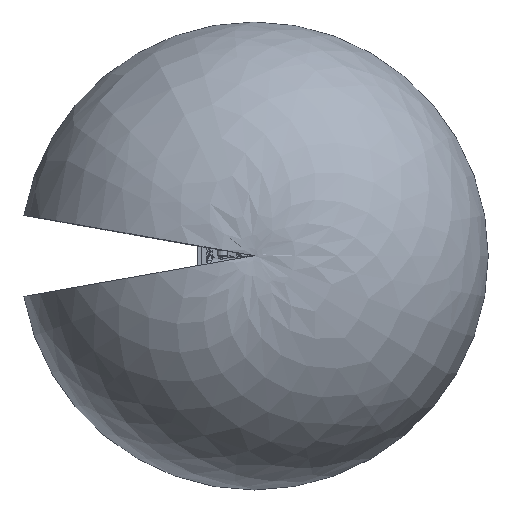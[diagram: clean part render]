
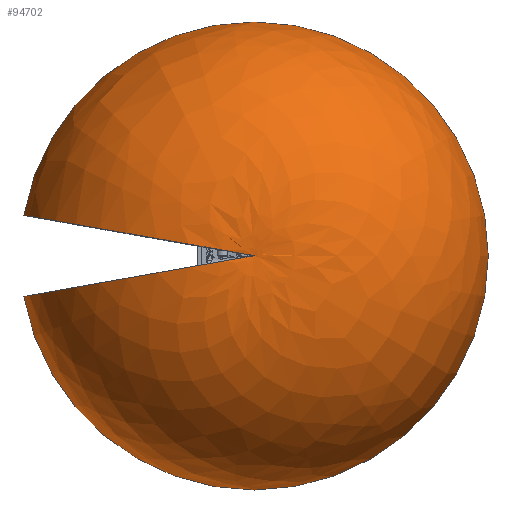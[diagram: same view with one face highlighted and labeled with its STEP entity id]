
A CAD part, top view. The second image highlights one B-rep face of the part: STEP entity #94702.
In plain terms, the highlighted free-form (B-spline) face has degree [2, 2] with [5, 9] control points.
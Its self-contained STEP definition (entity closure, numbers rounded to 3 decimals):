
#493=(
BOUNDED_SURFACE()
B_SPLINE_SURFACE(2,2,((#234481,#234482,#234483,#234484,#234485,#234486,
#234487,#234488,#234489),(#234490,#234491,#234492,#234493,#234494,#234495,
#234496,#234497,#234498),(#234499,#234500,#234501,#234502,#234503,#234504,
#234505,#234506,#234507),(#234508,#234509,#234510,#234511,#234512,#234513,
#234514,#234515,#234516),(#234517,#234518,#234519,#234520,#234521,#234522,
#234523,#234524,#234525)),.UNSPECIFIED.,.F.,.F.,.F.)
B_SPLINE_SURFACE_WITH_KNOTS((3,2,3),(3,2,2,2,3),(0.088,0.899,
1.711),(-2.967,-1.484,0.,
1.484,2.967),.UNSPECIFIED.)
GEOMETRIC_REPRESENTATION_ITEM()
RATIONAL_B_SPLINE_SURFACE(((1.,0.737,1.,0.737,1.,
0.737,1.,0.737,1.),(0.919,0.677,
0.919,0.677,0.919,0.677,
0.919,0.677,0.919),(1.,0.737,
1.,0.737,1.,0.737,1.,0.737,1.),(0.919,
0.677,0.919,0.677,0.919,
0.677,0.919,0.677,0.919),
(1.,0.737,1.,0.737,1.,0.737,1.,0.737,
1.)))
REPRESENTATION_ITEM('')
SURFACE()
);
#29275=FACE_OUTER_BOUND('',#35645,.T.);
#35645=EDGE_LOOP('',(#87619,#87620,#87621));
#38579=CIRCLE('',#103521,2596.498);
#38586=CIRCLE('',#103528,2285.266);
#38587=CIRCLE('',#103529,2285.266);
#47558=VERTEX_POINT('',#234396);
#47559=VERTEX_POINT('',#234398);
#47563=VERTEX_POINT('',#234526);
#60910=EDGE_CURVE('',#47559,#47558,#38579,.T.);
#60917=EDGE_CURVE('',#47563,#47558,#38586,.T.);
#60918=EDGE_CURVE('',#47563,#47559,#38587,.T.);
#87619=ORIENTED_EDGE('',*,*,#60910,.T.);
#87620=ORIENTED_EDGE('',*,*,#60917,.F.);
#87621=ORIENTED_EDGE('',*,*,#60918,.T.);
#94702=ADVANCED_FACE('',(#29275),#493,.F.);
#103521=AXIS2_PLACEMENT_3D('',#234399,#128569,#128570);
#103528=AXIS2_PLACEMENT_3D('',#234527,#128583,#128584);
#103529=AXIS2_PLACEMENT_3D('',#234528,#128585,#128586);
#128569=DIRECTION('center_axis',(0.,0.,1.));
#128570=DIRECTION('ref_axis',(1.,0.,0.));
#128583=DIRECTION('center_axis',(-0.174,-0.985,
0.));
#128584=DIRECTION('ref_axis',(0.,0.,-1.));
#128585=DIRECTION('center_axis',(0.174,-0.985,0.));
#128586=DIRECTION('ref_axis',(0.,0.,-1.));
#234396=CARTESIAN_POINT('',(-2557.051,450.877,980.));
#234398=CARTESIAN_POINT('',(-2557.051,-450.877,980.));
#234399=CARTESIAN_POINT('Origin',(0.,0.,980.));
#234481=CARTESIAN_POINT('Ctrl Pts',(-2557.051,-450.877,
980.));
#234482=CARTESIAN_POINT('Ctrl Pts',(-2143.898,-2793.983,980.));
#234483=CARTESIAN_POINT('Ctrl Pts',(226.3,-2586.617,
980.));
#234484=CARTESIAN_POINT('Ctrl Pts',(2596.498,-2379.252,
980.));
#234485=CARTESIAN_POINT('Ctrl Pts',(2596.498,0.,980.));
#234486=CARTESIAN_POINT('Ctrl Pts',(2596.498,2379.252,980.));
#234487=CARTESIAN_POINT('Ctrl Pts',(226.3,2586.617,980.));
#234488=CARTESIAN_POINT('Ctrl Pts',(-2143.898,2793.983,980.));
#234489=CARTESIAN_POINT('Ctrl Pts',(-2557.051,450.877,
980.));
#234490=CARTESIAN_POINT('Ctrl Pts',(-2472.4,-435.951,
1958.398));
#234491=CARTESIAN_POINT('Ctrl Pts',(-2072.925,-2701.488,
1958.398));
#234492=CARTESIAN_POINT('Ctrl Pts',(218.808,-2500.988,
1958.398));
#234493=CARTESIAN_POINT('Ctrl Pts',(2510.541,-2300.487,
1958.398));
#234494=CARTESIAN_POINT('Ctrl Pts',(2510.541,0.,1958.398));
#234495=CARTESIAN_POINT('Ctrl Pts',(2510.541,2300.487,1958.398));
#234496=CARTESIAN_POINT('Ctrl Pts',(218.808,2500.988,1958.398));
#234497=CARTESIAN_POINT('Ctrl Pts',(-2072.925,2701.488,
1958.398));
#234498=CARTESIAN_POINT('Ctrl Pts',(-2472.4,435.951,
1958.398));
#234499=CARTESIAN_POINT('Ctrl Pts',(-1715.058,-302.411,
2569.339));
#234500=CARTESIAN_POINT('Ctrl Pts',(-1437.949,-1873.972,
2569.339));
#234501=CARTESIAN_POINT('Ctrl Pts',(151.783,-1734.888,2569.339));
#234502=CARTESIAN_POINT('Ctrl Pts',(1741.515,-1595.805,
2569.339));
#234503=CARTESIAN_POINT('Ctrl Pts',(1741.515,0.,2569.339));
#234504=CARTESIAN_POINT('Ctrl Pts',(1741.515,1595.805,2569.339));
#234505=CARTESIAN_POINT('Ctrl Pts',(151.783,1734.888,2569.339));
#234506=CARTESIAN_POINT('Ctrl Pts',(-1437.949,1873.972,
2569.339));
#234507=CARTESIAN_POINT('Ctrl Pts',(-1715.058,302.411,
2569.339));
#234508=CARTESIAN_POINT('Ctrl Pts',(-957.715,-168.871,
3180.281));
#234509=CARTESIAN_POINT('Ctrl Pts',(-802.973,-1046.455,
3180.281));
#234510=CARTESIAN_POINT('Ctrl Pts',(84.758,-968.789,
3180.281));
#234511=CARTESIAN_POINT('Ctrl Pts',(972.49,-891.122,
3180.281));
#234512=CARTESIAN_POINT('Ctrl Pts',(972.49,0.,3180.281));
#234513=CARTESIAN_POINT('Ctrl Pts',(972.49,891.122,3180.281));
#234514=CARTESIAN_POINT('Ctrl Pts',(84.758,968.789,3180.281));
#234515=CARTESIAN_POINT('Ctrl Pts',(-802.973,1046.455,
3180.281));
#234516=CARTESIAN_POINT('Ctrl Pts',(-957.715,168.871,3180.281));
#234517=CARTESIAN_POINT('Ctrl Pts',(0.,0.,3042.751));
#234518=CARTESIAN_POINT('Ctrl Pts',(0.,0.,3042.751));
#234519=CARTESIAN_POINT('Ctrl Pts',(0.,0.,3042.751));
#234520=CARTESIAN_POINT('Ctrl Pts',(0.,0.,3042.751));
#234521=CARTESIAN_POINT('Ctrl Pts',(0.,0.,3042.751));
#234522=CARTESIAN_POINT('Ctrl Pts',(0.,0.,3042.751));
#234523=CARTESIAN_POINT('Ctrl Pts',(0.,0.,3042.751));
#234524=CARTESIAN_POINT('Ctrl Pts',(0.,0.,3042.751));
#234525=CARTESIAN_POINT('Ctrl Pts',(0.,0.,3042.751));
#234526=CARTESIAN_POINT('',(0.,0.,3042.751));
#234527=CARTESIAN_POINT('Origin',(-315.138,55.567,780.));
#234528=CARTESIAN_POINT('Origin',(-315.138,-55.567,780.));
